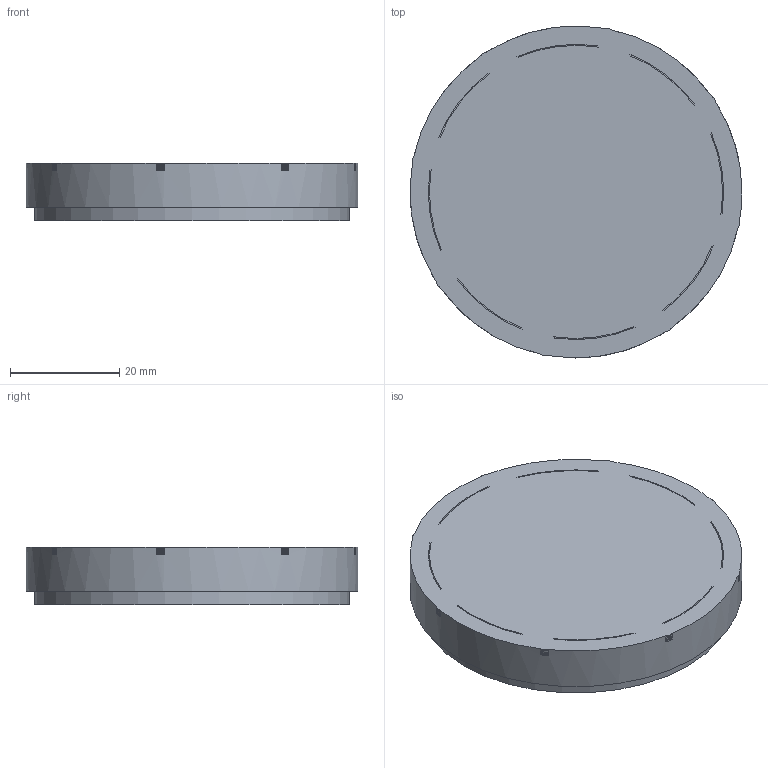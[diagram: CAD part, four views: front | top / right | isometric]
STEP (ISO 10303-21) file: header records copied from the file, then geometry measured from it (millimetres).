
FILE_DESCRIPTION(('Open CASCADE Model'),'2;1');
FILE_NAME('Open CASCADE Shape Model','2026-11-03T18:39:04',('Author'),( 'Open CASCADE'),'Open CASCADE STEP processor 7.9','Open CASCADE 7.9' ,'Unknown');
FILE_SCHEMA(('AUTOMOTIVE_DESIGN { 1 0 10303 214 1 1 1 1 }'));
Length unit declared in the file: millimetre
Products named in the file (1): Open CASCADE STEP translator 7.9 11
Bounding box: 60.7 x 60.7 x 10.5 mm (x, y, z)
Volume: 10501.9 mm3; surface area: 9632.6 mm2
Topology: 1 solids, 1 shells, 149 faces, 402 edges, 268 vertices
Faces by surface type: plane 127, cylinder 22
Full cylindrical faces by diameter (mm): 5.2 x1, 7 x1, 50 x1, 51.95 x1, 57.6 x1, 60.7 x1
Entity records: 9884 total; most frequent: CARTESIAN_POINT 1936, DIRECTION 1434, LINE 990, VECTOR 990, ORIENTED_EDGE 804, PCURVE 804, DEFINITIONAL_REPRESENTATION 804, EDGE_CURVE 402
